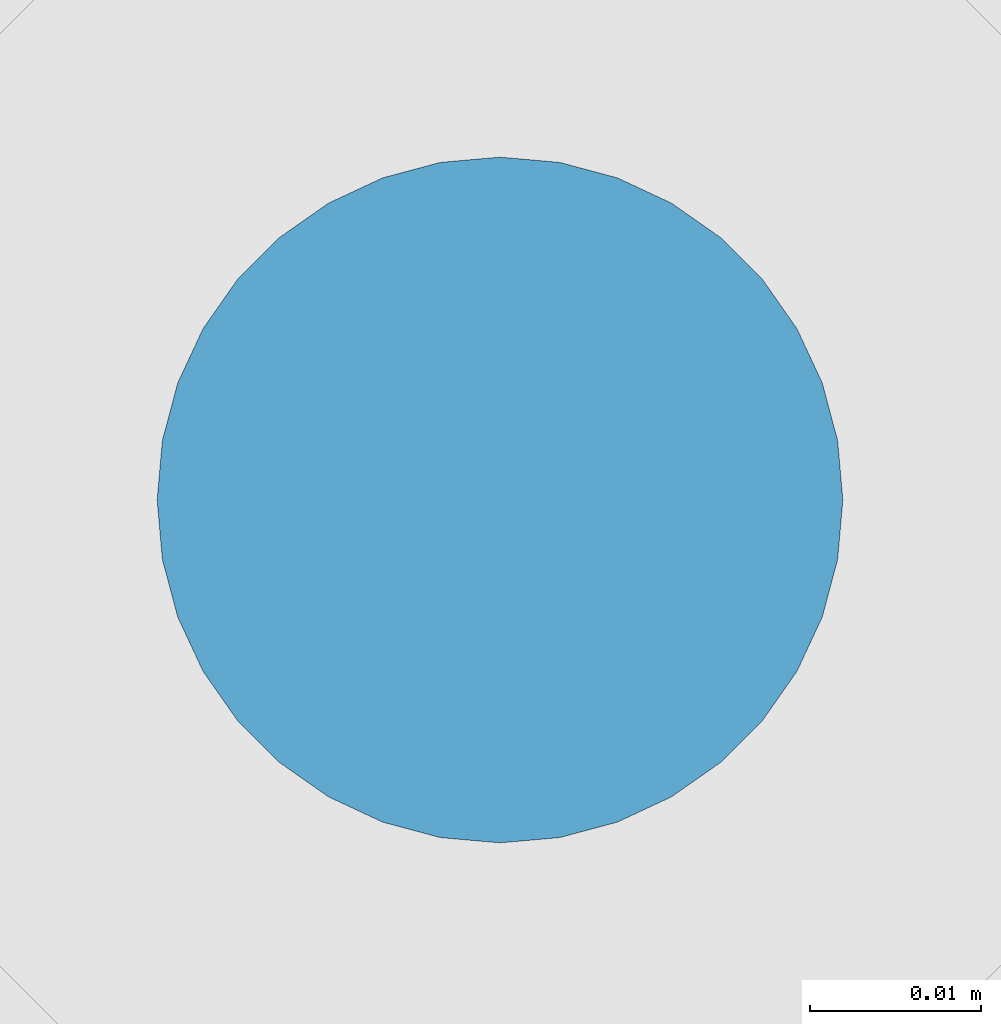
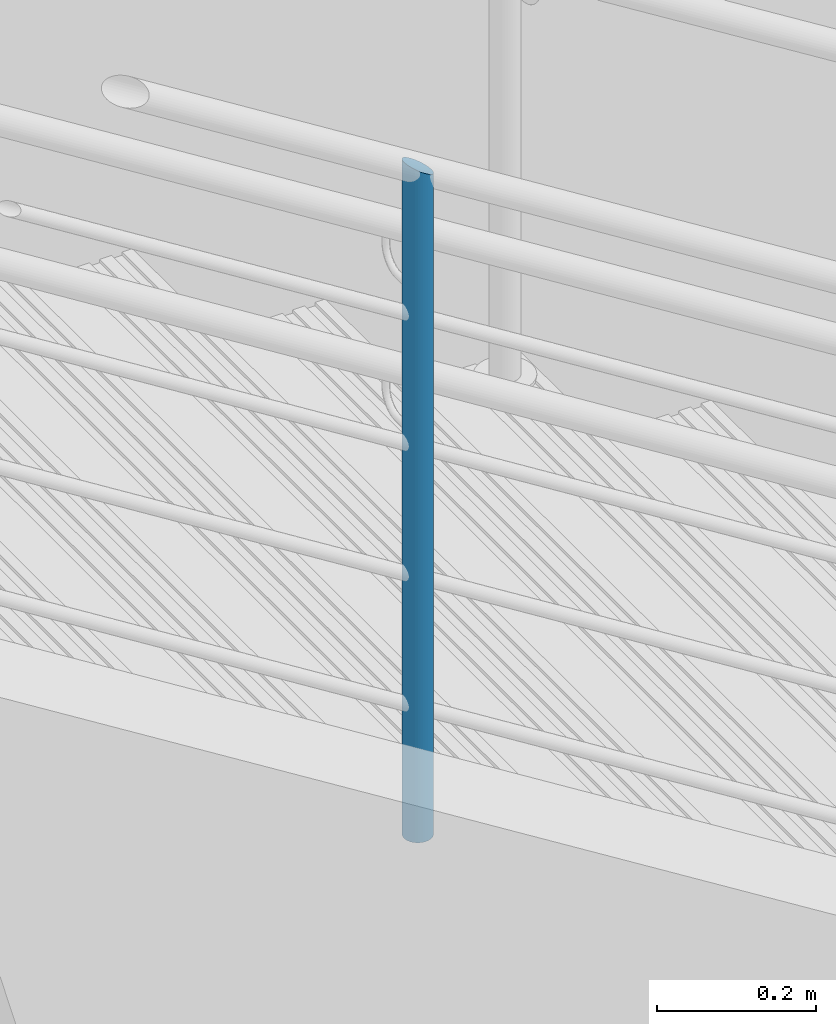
# One storey, part 82 of 237: 1 building element part, 1 element without a shape of its own.
"""IFC2X3 building model written with IfcOpenShell, lengths in millimetres."""

from ifc_helpers import new_model, entity, si_unit, converted_unit, derived_unit, money_unit, direction, frame, origin_with_axes, place, context, subcontext, project, spatial, faceted_brep, material, type_object, element, aggregate, save


model = new_model("IFC2X3")

# Units and contexts
model_context = context("Model", 3, precision=0.01, world=origin_with_axes(), true_north=direction((0.0, 1.0)))
body_context = subcontext(model_context, "Body", "Model", "MODEL_VIEW")
ifc_project = project(units=[si_unit("LENGTHUNIT", "METRE", prefix="MILLI"), si_unit("AREAUNIT", "SQUARE_METRE"), si_unit("VOLUMEUNIT", "CUBIC_METRE"), converted_unit("PLANEANGLEUNIT", "DEGREE", entity("IfcPlaneAngleMeasure", 0.0174532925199), si_unit("PLANEANGLEUNIT", "RADIAN"), dimensions=[0, 0, 0, 0, 0, 0, 0]), money_unit("USD"), converted_unit("TIMEUNIT", "Year", entity("IfcTimeMeasure", 31556926.0), si_unit("TIMEUNIT", "SECOND"), dimensions=[0, 0, 1, 0, 0, 0, 0]), si_unit("MASSUNIT", "GRAM", prefix="KILO"), si_unit("THERMODYNAMICTEMPERATUREUNIT", "DEGREE_CELSIUS"), si_unit("LUMINOUSINTENSITYUNIT", "LUMEN"), si_unit("ENERGYUNIT", "JOULE", prefix="MEGA"), derived_unit("THERMALCONDUCTANCEUNIT", [(si_unit("POWERUNIT", "WATT"), 1), (si_unit("LENGTHUNIT", "METRE"), -1), (si_unit("THERMODYNAMICTEMPERATUREUNIT", "KELVIN"), -1)]), derived_unit("SPECIFICHEATCAPACITYUNIT", [(si_unit("ENERGYUNIT", "JOULE"), 1), (si_unit("MASSUNIT", "GRAM", prefix="KILO"), -1), (si_unit("THERMODYNAMICTEMPERATUREUNIT", "KELVIN"), -1)]), derived_unit("MASSDENSITYUNIT", [(si_unit("MASSUNIT", "GRAM", prefix="KILO"), 1), (si_unit("VOLUMEUNIT", "CUBIC_METRE"), -1)])], contexts=[model_context])

# Site, building, storey
site_placement = place(None, origin_with_axes())
site = spatial("IfcSite", under=ifc_project, at=site_placement, Name="Local", CompositionType="ELEMENT")
building_placement = place(site_placement, origin_with_axes())
building = spatial("IfcBuilding", under=site, at=building_placement, Name="Construção", CompositionType="ELEMENT")
storey_placement = place(building_placement, origin_with_axes())
storey = spatial("IfcBuildingStorey", under=building, at=storey_placement, Name="Pavimento Térreo", CompositionType="ELEMENT", Elevation=0.0)

# Railing, building element part
railing_type = type_object("IfcRailingType", Name="Tipo de Guarda-Corpo", PredefinedType="NOTDEFINED")
railing_placement = place(storey_placement, frame((104000.0, 14000.0, -7099.22292764), z_axis=(0.0, 0.0, 1.0), x_axis=(1.0, 0.0, 0.0)))
railing = element("IfcRailing", 1, at=railing_placement, inside=storey, type_object=railing_type, Name="Guarda-Corpo - 001", PredefinedType="NOTDEFINED")
ifc_material = material(Name="Aço - Inoxidável")
building_element_part_placement = place(railing_placement, origin_with_axes())
building_element_part = element("IfcBuildingElementPart", 2, at=building_element_part_placement, material=ifc_material, Name="Aço - Inoxidável", context=body_context, shape_type="Brep", body=[
    faceted_brep([(-2659.62682041, 18671.7252203, 1433.13252831), (-2656.15385688, 18671.4213752, 1433.13252831), (-2656.15385688, 18671.4213752, 2458.13252831), (-2659.62682041, 18671.7252203, 2460.30793913), (-2652.68089331, 18671.72522, 1433.13252831), (-2662.99425968, 18672.6275232, 1433.13252831), (-2666.15385673, 18674.1008677, 1433.13252831), (-2669.00960882, 18676.100487, 1433.13252831), (-2671.47474535, 18678.5656238, 1433.13252831), (-2673.47436441, 18681.4213762, 1433.13252831), (-2674.94770857, 18684.5809734, 1433.13252831), (-2675.85001104, 18687.9484127, 1433.13252831), (-2676.15385579, 18691.4213763, 1433.13252831), (-2675.85001066, 18694.8943398, 1433.13252831), (-2674.94770783, 18698.2617791, 1433.13252831), (-2673.47436331, 18701.4213762, 1433.13252831), (-2671.47474394, 18704.2771282, 1433.13252831), (-2669.00960714, 18706.7422648, 1433.13252831), (-2666.15385484, 18708.7418838, 1433.13252831), (-2662.99425762, 18710.215228, 1433.13252831), (-2659.62681826, 18711.1175305, 1433.13252831), (-2656.15385469, 18711.4213752, 1433.13252831), (-2652.68089116, 18711.1175301, 1433.13252831), (-2649.31345189, 18710.2152272, 1433.13252831), (-2646.15385484, 18708.7418827, 1433.13252831), (-2643.29810275, 18706.7422634, 1433.13252831), (-2640.83296622, 18704.2771266, 1433.13252831), (-2638.83334716, 18701.4213743, 1433.13252831), (-2637.360003, 18698.261777, 1433.13252831), (-2636.45770054, 18694.8943377, 1433.13252831), (-2636.15385579, 18691.4213741, 1433.13252831), (-2636.45770091, 18687.9484106, 1433.13252831), (-2637.36000374, 18684.5809713, 1433.13252831), (-2638.83334826, 18681.4213743, 1433.13252831), (-2640.83296763, 18678.5656222, 1433.13252831), (-2643.29810443, 18676.1004856, 1433.13252831), (-2646.15385673, 18674.1008666, 1433.13252831), (-2649.31345395, 18672.6275224, 1433.13252831), (-2652.68089331, 18671.72522, 2455.95711749), (-2675.85001066, 18694.8943398, 2470.46989614), (-2676.15385579, 18691.4213763, 2470.66021993), (-2675.85001104, 18687.9484127, 2470.46989614), (-2674.94770857, 18684.5809734, 2469.90470768), (-2673.47436441, 18681.4213762, 2468.9818275), (-2671.47474535, 18678.5656238, 2467.72929686), (-2669.00960882, 18676.100487, 2466.18517326), (-2666.15385673, 18674.1008677, 2464.39637412), (-2662.99425968, 18672.6275232, 2462.41725119), (-2649.31345395, 18672.6275224, 2453.84780542), (-2646.15385673, 18674.1008666, 2451.8686825), (-2643.29810443, 18676.1004856, 2450.07988335), (-2640.83296763, 18678.5656222, 2448.53575975), (-2638.83334826, 18681.4213743, 2447.28322911), (-2637.36000374, 18684.5809713, 2446.36034893), (-2636.45770091, 18687.9484106, 2445.79516047), (-2636.15385579, 18691.4213741, 2445.60483669), (-2636.45770054, 18694.8943377, 2445.79516047), (-2637.360003, 18698.261777, 2446.36034893), (-2638.83334716, 18701.4213743, 2447.28322911), (-2640.83296622, 18704.2771266, 2448.53575975), (-2643.29810275, 18706.7422634, 2450.07988335), (-2646.15385484, 18708.7418827, 2451.8686825), (-2649.31345189, 18710.2152272, 2453.84780542), (-2652.68089116, 18711.1175301, 2455.95711749), (-2656.15385469, 18711.4213752, 2458.13252831), (-2659.62681826, 18711.1175305, 2460.30793913), (-2662.99425762, 18710.215228, 2462.41725119), (-2666.15385484, 18708.7418838, 2464.39637412), (-2669.00960714, 18706.7422648, 2466.18517326), (-2671.47474394, 18704.2771282, 2467.72929686), (-2673.47436331, 18701.4213762, 2468.9818275), (-2674.94770783, 18698.2617791, 2469.90470768)], [[[0, 1, 2, 3]], [[4, 1, 0, 5, 6, 7, 8, 9, 10, 11, 12, 13, 14, 15, 16, 17, 18, 19, 20, 21, 22, 23, 24, 25, 26, 27, 28, 29, 30, 31, 32, 33, 34, 35, 36, 37]], [[1, 4, 38, 2]], [[39, 40, 41, 42, 43, 44, 45, 46, 47, 3, 2, 38, 48, 49, 50, 51, 52, 53, 54, 55, 56, 57, 58, 59, 60, 61, 62, 63, 64, 65, 66, 67, 68, 69, 70, 71]], [[5, 0, 3, 47]], [[6, 5, 47, 46]], [[7, 6, 46, 45]], [[8, 7, 45, 44]], [[9, 8, 44, 43]], [[10, 9, 43, 42]], [[11, 10, 42, 41]], [[12, 11, 41, 40]], [[13, 12, 40, 39]], [[14, 13, 39, 71]], [[15, 14, 71, 70]], [[16, 15, 70, 69]], [[17, 16, 69, 68]], [[18, 17, 68, 67]], [[19, 18, 67, 66]], [[20, 19, 66, 65]], [[21, 20, 65, 64]], [[22, 21, 64, 63]], [[23, 22, 63, 62]], [[24, 23, 62, 61]], [[25, 24, 61, 60]], [[26, 25, 60, 59]], [[27, 26, 59, 58]], [[28, 27, 58, 57]], [[29, 28, 57, 56]], [[30, 29, 56, 55]], [[31, 30, 55, 54]], [[32, 31, 54, 53]], [[33, 32, 53, 52]], [[34, 33, 52, 51]], [[35, 34, 51, 50]], [[36, 35, 50, 49]], [[37, 36, 49, 48]], [[4, 37, 48, 38]]]),
])
aggregate(railing, [building_element_part])

save(model, "model.ifc")
